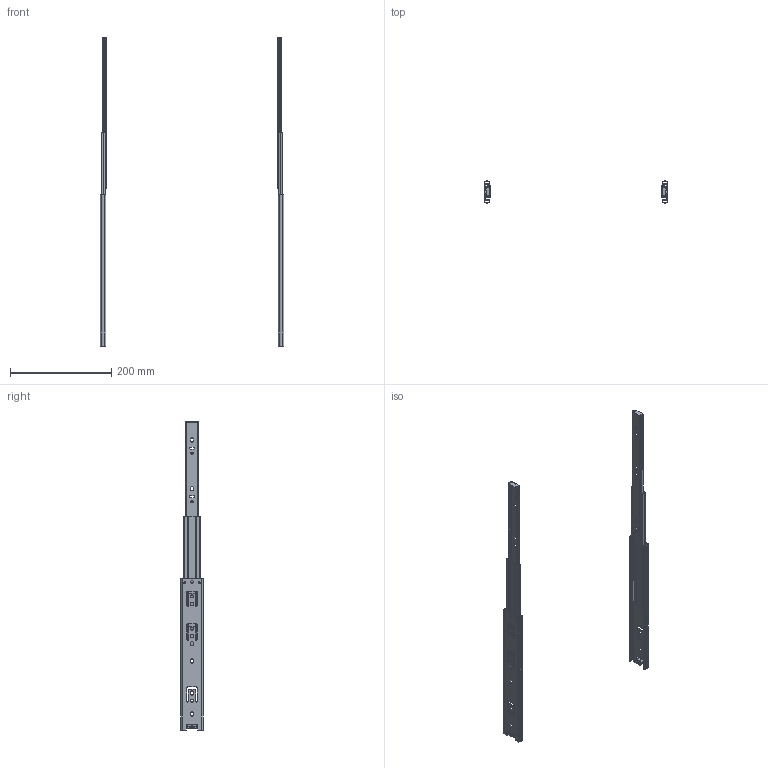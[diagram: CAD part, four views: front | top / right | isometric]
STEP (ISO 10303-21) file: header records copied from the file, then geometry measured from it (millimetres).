
FILE_DESCRIPTION(/* description */ (''),/* implementation_level */ '2;1');
FILE_NAME(/* name */ 'D:\$Workingspace\Designs\Katalog\Cadsoft\GTV Prowadnice\Prowadnice GTV_bryły 3D\PK-0H45300GX1_wysunieta.stp',/* time_stamp */ '2016-11-22T12:14:29+01:00',/* author */ ('tomaszw'),/* organization */ (''),/* preprocessor_version */ 'ST-DEVELOPER v16.1',/* originating_system */ 'Autodesk Inventor 2016',/* authorisation */ '');
FILE_SCHEMA (('AUTOMOTIVE_DESIGN { 1 0 10303 214 3 1 1 }'));
Length unit declared in the file: millimetre
Products named in the file (5): Blokada_5; PK-0H45_1-300-GX1; PK-0H45_2-300-GX1; PK-0H45_3-300-GX1; PK-0H45-_-GX1
Assembly tree (8 placements, depth 2):
  PK-0H45-_-GX1
    Blokada_5  x2
    PK-0H45_1-300-GX1  x2
    PK-0H45_2-300-GX1  x2
    PK-0H45_3-300-GX1  x2
Bounding box: 364 x 43.8 x 610 mm (x, y, z)
Volume: 87679 mm3; surface area: 178578.2 mm2
Topology: 8 solids, 8 shells, 468 faces, 1348 edges, 896 vertices
Faces by surface type: cylinder 236, plane 228, cone 4
Full cylindrical faces by diameter (mm): 4.5 x6, 5 x2, 6 x6, 7 x4
Entity records: 8192 total; most frequent: CARTESIAN_POINT 1386, DIRECTION 1385, ORIENTED_EDGE 1330, EDGE_CURVE 665, AXIS2_PLACEMENT_3D 481, VERTEX_POINT 448, LINE 423, VECTOR 423
